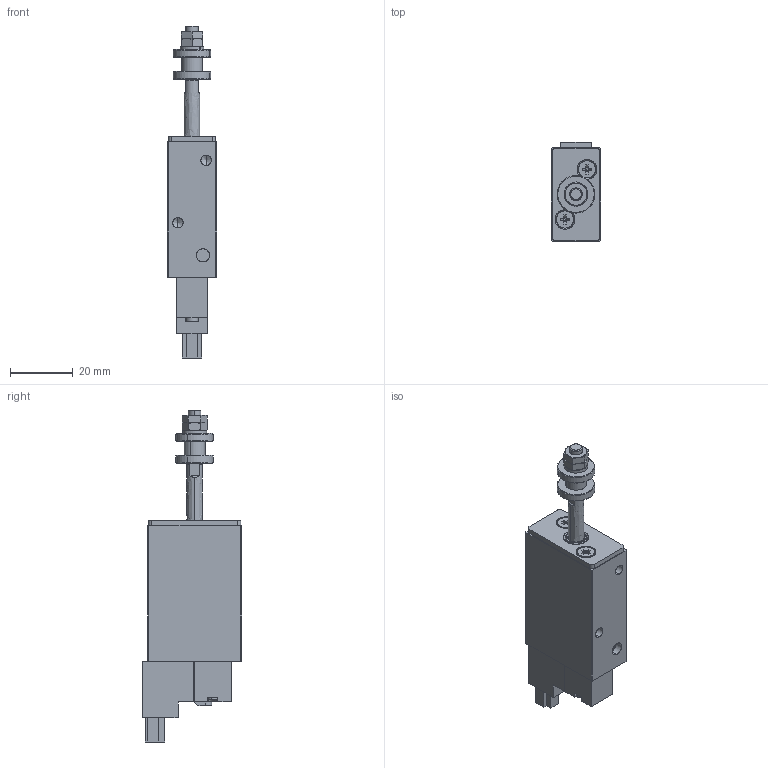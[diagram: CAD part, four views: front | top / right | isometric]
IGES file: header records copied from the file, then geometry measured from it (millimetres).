
Start section: SolidWorks IGES file using analytic representation for surfaces
Bounding box: 15.8 x 31.7 x 106.1 mm (x, y, z)
Surface area: 9406.8 mm2 (no closed solid volume)
Topology: 0 solids, 0 shells, 436 faces, 4115 edges, 4093 vertices
Faces by surface type: bspline 236, revolution 200
